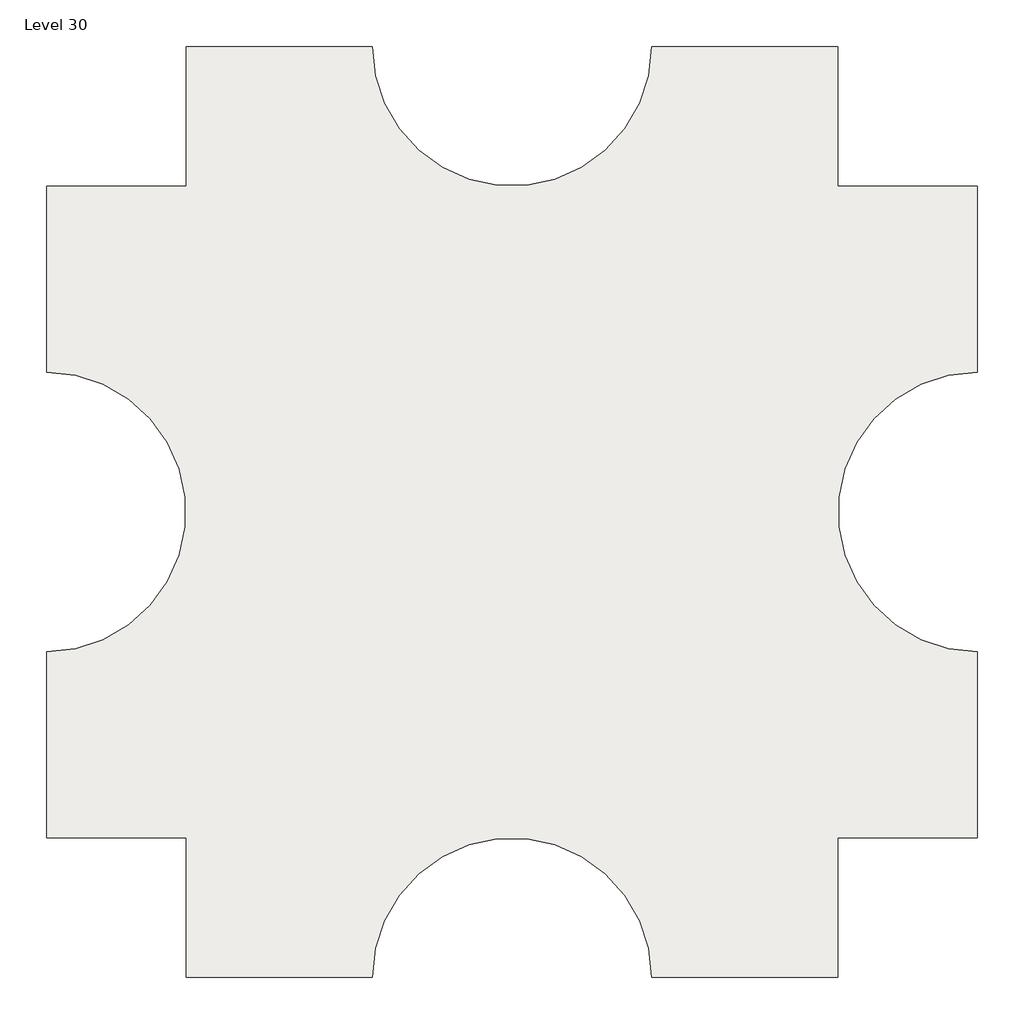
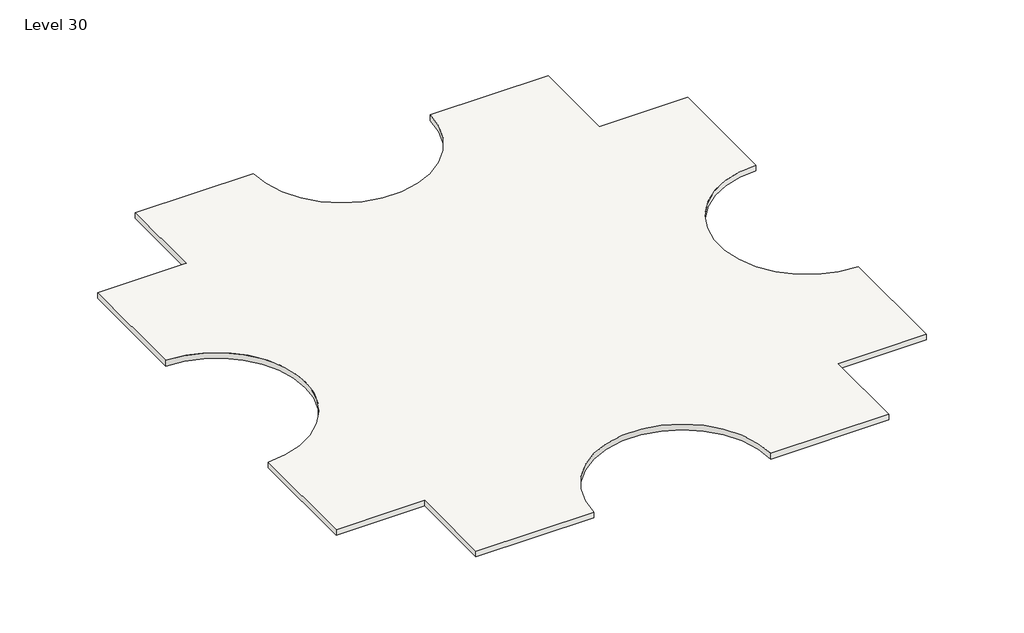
# One storey: 2 slabs.
"""IFC4 building model written with IfcOpenShell, lengths in millimetres."""

import ifcopenshell
import ifcopenshell.guid

model = None  # the IFC model being written
_history = None  # IfcOwnerHistory: only IFC2X3 demands one
_inside = {}  # id of a spatial element -> (the spatial element, [elements in it])
_under = {}  # id of a project, library or spatial element -> (it, [spatial elements below it])
_declared = {}  # id of a project -> (the project, [libraries it declares])
_typed = {}  # id of a type object -> (the type object, [elements of that type])
_made_of = {}  # id of a material, layer set ... -> (it, [elements and type objects made of it])


def new_model(schema):
    """Start an empty IFC model of exactly this schema.

    Asked for "IFC4X3", IfcOpenShell would pick the latest addendum, in which some entities
    have other attributes; the version numbers below select the first issue.
    IFC2X3 requires an IfcOwnerHistory on every rooted entity: one is made here for all.
    """
    global model, _history
    if schema == "IFC4X3":
        model = ifcopenshell.file(schema_version=(4, 3, 0, 0))
    else:
        model = ifcopenshell.file(schema=schema)
    _inside.clear()
    _under.clear()
    _declared.clear()
    _typed.clear()
    _made_of.clear()
    _history = None
    if model.schema == "IFC2X3":
        org = make("IfcOrganization", Name="unknown")
        user = make(
            "IfcPersonAndOrganization",
            ThePerson=make("IfcPerson", FamilyName="unknown"),
            TheOrganization=org,
        )
        app = make(
            "IfcApplication",
            ApplicationDeveloper=org,
            Version="unknown",
            ApplicationFullName="unknown",
            ApplicationIdentifier="unknown",
        )
        _history = make(
            "IfcOwnerHistory",
            OwningUser=user,
            OwningApplication=app,
            ChangeAction="ADDED",
            CreationDate=0,
        )
    return model


def make(cls, **values):
    """One entity of the class cls with the attributes given. An attribute that is None is left unset."""
    return model.create_entity(
        cls, **{name: value for name, value in values.items() if value is not None}
    )


def rooted(cls, **values):
    """An entity with a GlobalId (a new one), such as an element, a storey or a relation."""
    return make(cls, GlobalId=ifcopenshell.guid.new(), OwnerHistory=_history, **values)


def si_unit(unit_type, name, prefix=None):
    """IfcSIUnit, for example si_unit("LENGTHUNIT", "METRE", prefix="MILLI")."""
    return make("IfcSIUnit", UnitType=unit_type, Prefix=prefix, Name=name)


def assignment(units):
    """IfcUnitAssignment: the units of a project."""
    return None if units is None else make("IfcUnitAssignment", Units=units)


def point(xyz):
    """IfcCartesianPoint."""
    return None if xyz is None else make("IfcCartesianPoint", Coordinates=xyz)


def direction(xyz):
    """IfcDirection."""
    return None if xyz is None else make("IfcDirection", DirectionRatios=xyz)


def frame(location, z_axis=None, x_axis=None):
    """IfcAxis2Placement3D, a coordinate frame: its origin and axes. An axis left out is left unset."""
    return make(
        "IfcAxis2Placement3D",
        Location=point(location),
        Axis=direction(z_axis),
        RefDirection=direction(x_axis),
    )


def frame_2d(location, x_axis=None):
    """IfcAxis2Placement2D, a coordinate frame in the plane: its origin and x axis."""
    return make(
        "IfcAxis2Placement2D", Location=point(location), RefDirection=direction(x_axis)
    )


def origin():
    """The frame at (0, 0, 0) with its axes left unset."""
    return frame((0.0, 0.0, 0.0))


def place(relative_to, where):
    """IfcLocalPlacement: puts the frame where relative to a parent placement (None: the world)."""
    return make(
        "IfcLocalPlacement", PlacementRelTo=relative_to, RelativePlacement=where
    )


def context(
    kind, dimensions, precision=None, world=None, true_north=None, identifier=None
):
    """IfcGeometricRepresentationContext, for example the 3D "Model" context."""
    return make(
        "IfcGeometricRepresentationContext",
        ContextIdentifier=identifier,
        ContextType=kind,
        CoordinateSpaceDimension=dimensions,
        Precision=precision,
        WorldCoordinateSystem=world,
        TrueNorth=true_north,
    )


def project(units=None, contexts=None):
    """IfcProject with its units and contexts."""
    return rooted(
        "IfcProject",
        Name="project",
        RepresentationContexts=contexts,
        UnitsInContext=assignment(units),
    )


def spatial(cls, under=None, at=None, **own):
    """A site, building, storey or space (cls), placed at a placement, below another one or the project."""
    s = rooted(cls, ObjectPlacement=at, **own)
    if under is not None:
        _under.setdefault(under.id(), (under, []))[1].append(s)
    return s


def polyline(points):
    """IfcPolyline through the points."""
    return make("IfcPolyline", Points=[point(p) for p in points])


def circle_curve(where, radius):
    """IfcCircle in the frame where."""
    return make("IfcCircle", Position=where, Radius=radius)


def trimmed(basis, trim1, trim2, sense, master):
    """IfcTrimmedCurve: the piece of a basis curve between two trims."""
    return make(
        "IfcTrimmedCurve",
        BasisCurve=basis,
        Trim1=trim1,
        Trim2=trim2,
        SenseAgreement=sense,
        MasterRepresentation=master,
    )


def segment(curve, same_sense, transition):
    """IfcCompositeCurveSegment."""
    return make(
        "IfcCompositeCurveSegment",
        Transition=transition,
        SameSense=same_sense,
        ParentCurve=curve,
    )


def composite_curve(segments, self_intersect=None):
    """IfcCompositeCurve: segments joined end to end."""
    return make("IfcCompositeCurve", Segments=segments, SelfIntersect=self_intersect)


def outline(outer, holes=None, kind="AREA"):
    """IfcArbitraryClosedProfileDef: a profile drawn as a closed curve; with holes, ...WithVoids."""
    if holes is None:
        return make("IfcArbitraryClosedProfileDef", ProfileType=kind, OuterCurve=outer)
    return make(
        "IfcArbitraryProfileDefWithVoids",
        ProfileType=kind,
        OuterCurve=outer,
        InnerCurves=holes,
    )


def extrude(swept, where, along, depth):
    """IfcExtrudedAreaSolid: the profile swept, set in the frame where, extruded along a direction by depth."""
    return make(
        "IfcExtrudedAreaSolid",
        SweptArea=swept,
        Position=where,
        ExtrudedDirection=direction(along),
        Depth=depth,
    )


def shape(context_of_items, identifier, shape_type, items):
    """IfcShapeRepresentation: the items that make up one representation, for example the "Body"."""
    return make(
        "IfcShapeRepresentation",
        ContextOfItems=context_of_items,
        RepresentationIdentifier=identifier,
        RepresentationType=shape_type,
        Items=items,
    )


def made_of(thing, what):
    """Note that an element or type object is made of a material, layer set ...; save() writes the relation."""
    if what is not None:
        _made_of.setdefault(what.id(), (what, []))[1].append(thing)
    return thing


def element(
    cls,
    number,
    at=None,
    inside=None,
    cuts=None,
    type_object=None,
    material=None,
    context=None,
    identifier="Body",
    shape_type=None,
    held_by="IfcProductDefinitionShape",
    body=None,
    shapes=None,
    **own,
):
    """One element of the class cls, such as IfcWall. Its Tag is "e" and its number.

    at: its placement. inside: the storey or other place that contains it. cuts: it is an
    opening in that element (IfcRelVoidsElement). A single representation is given by context,
    identifier, shape_type and body (its items); several are given by shapes. held_by: the class
    of the entity that holds the representations. save() writes the other relations.
    """
    e = rooted(cls, Tag="e%d" % number, ObjectPlacement=at, **own)
    if body is not None:
        shapes = [shape(context, identifier, shape_type, body)]
    if shapes is not None:
        e.Representation = make(held_by, Representations=shapes)
    if inside is not None:
        _inside.setdefault(inside.id(), (inside, []))[1].append(e)
    if cuts is not None:
        rooted(
            "IfcRelVoidsElement", RelatingBuildingElement=cuts, RelatedOpeningElement=e
        )
    if type_object is not None:
        _typed.setdefault(type_object.id(), (type_object, []))[1].append(e)
    return made_of(e, material)


def aggregate(whole, parts):
    """IfcRelAggregates: a whole, such as a stair, and the parts it consists of."""
    return rooted("IfcRelAggregates", RelatingObject=whole, RelatedObjects=parts)


def save(model, path):
    """Write the relations noted so far, then the file.

    IfcRelAggregates (storeys below a building ...), IfcRelContainedInSpatialStructure (elements
    in a storey), IfcRelDefinesByType, IfcRelAssociatesMaterial and IfcRelDeclares: one each for
    every whole, place, type object, material and project.
    """
    for whole, parts in _under.values():
        aggregate(whole, parts)
    for where, things in _inside.values():
        rooted(
            "IfcRelContainedInSpatialStructure",
            RelatedElements=things,
            RelatingStructure=where,
        )
    for kind, things in _typed.values():
        rooted("IfcRelDefinesByType", RelatedObjects=things, RelatingType=kind)
    for what, things in _made_of.values():
        rooted("IfcRelAssociatesMaterial", RelatedObjects=things, RelatingMaterial=what)
    for by, libraries in _declared.values():
        rooted("IfcRelDeclares", RelatingContext=by, RelatedDefinitions=libraries)
    model.write(path)


model = new_model("IFC4")

# Units and contexts
model_context = context("Model", 3, world=origin())
ifc_project = project(units=[si_unit("LENGTHUNIT", "METRE", prefix="MILLI")], contexts=[model_context])

# Site, building, storey
site = spatial("IfcSite", under=ifc_project)
building = spatial("IfcBuilding", under=site)
storey = spatial("IfcBuildingStorey", under=building, Name="Level 30", Elevation=88392.0)

# Slabs
placement = place(None, origin())
element("IfcSlab", 1, ObjectType="Generic - 12\"", at=placement, inside=storey, context=model_context, shape_type="SweptSolid", body=[
    extrude(outline(composite_curve([segment(polyline([(-7150.3629456, 4479.6634547), (-7150.3629456, 9051.6634547), (-1054.3629456, 9051.6634547)]), True, "CONTINUOUS"), segment(trimmed(circle_curve(frame_2d((3517.6370544, 9051.6634547)), 4572.0), [point((-1054.3629456, 9051.6634547))], [point((8089.6370544, 9051.6634547))], True, "CARTESIAN"), True, "CONTINUOUS"), segment(polyline([(8089.6370544, 9051.6634547), (14185.6370544, 9051.6634547), (14185.6370544, 4479.6634547), (18757.6370544, 4479.6634547), (18757.6370544, -1616.3365453)]), True, "CONTINUOUS"), segment(trimmed(circle_curve(frame_2d((18757.6370544, -6188.3365453)), 4572.0), [point((18757.6370544, -1616.3365453))], [point((18757.6370544, -10760.3365453))], True, "CARTESIAN"), True, "CONTINUOUS"), segment(polyline([(18757.6370544, -10760.3365453), (18757.6370544, -16856.3365453), (14185.6370544, -16856.3365453), (14185.6370544, -21428.3365453), (8089.6370544, -21428.3365453)]), True, "CONTINUOUS"), segment(trimmed(circle_curve(frame_2d((3517.6370544, -21428.3365453)), 4572.0), [point((8089.6370544, -21428.3365453))], [point((-1054.3629456, -21428.3365453))], True, "CARTESIAN"), True, "CONTINUOUS"), segment(polyline([(-1054.3629456, -21428.3365453), (-7150.3629456, -21428.3365453), (-7150.3629456, -16856.3365453), (-11722.3629456, -16856.3365453), (-11722.3629456, -10760.3365453)]), True, "CONTINUOUS"), segment(trimmed(circle_curve(frame_2d((-11722.3629456, -6188.3365453)), 4572.0), [point((-11722.3629456, -10760.3365453))], [point((-11722.3629456, -1616.3365453))], True, "CARTESIAN"), True, "CONTINUOUS"), segment(polyline([(-11722.3629456, -1616.3365453), (-11722.3629456, 4479.6634547), (-7150.3629456, 4479.6634547)]), True, "CONTINUOUS")], self_intersect=False)), frame((0.0, 0.0, 88087.2), z_axis=(0.0, 0.0, 1.0), x_axis=(1.0, 0.0, 0.0)), (0.0, 0.0, 1.0), 304.8),
])
element("IfcSlab", 2, ObjectType="Generic - 12\"", at=placement, inside=storey, context=model_context, shape_type="SweptSolid", body=[
    extrude(outline(composite_curve([segment(polyline([(-7150.3629456, 4479.6634547), (-7150.3629456, 9051.6634547), (-1054.3629456, 9051.6634547)]), True, "CONTINUOUS"), segment(trimmed(circle_curve(frame_2d((3517.6370544, 9051.6634547)), 4572.0), [point((-1054.3629456, 9051.6634547))], [point((8089.6370544, 9051.6634547))], True, "CARTESIAN"), True, "CONTINUOUS"), segment(polyline([(8089.6370544, 9051.6634547), (14185.6370544, 9051.6634547), (14185.6370544, 4479.6634547), (18757.6370544, 4479.6634547), (18757.6370544, -1616.3365453)]), True, "CONTINUOUS"), segment(trimmed(circle_curve(frame_2d((18757.6370544, -6188.3365453)), 4572.0), [point((18757.6370544, -1616.3365453))], [point((18757.6370544, -10760.3365453))], True, "CARTESIAN"), True, "CONTINUOUS"), segment(polyline([(18757.6370544, -10760.3365453), (18757.6370544, -16856.3365453), (14185.6370544, -16856.3365453), (14185.6370544, -21428.3365453), (8089.6370544, -21428.3365453)]), True, "CONTINUOUS"), segment(trimmed(circle_curve(frame_2d((3517.6370544, -21428.3365453)), 4572.0), [point((8089.6370544, -21428.3365453))], [point((-1054.3629456, -21428.3365453))], True, "CARTESIAN"), True, "CONTINUOUS"), segment(polyline([(-1054.3629456, -21428.3365453), (-7150.3629456, -21428.3365453), (-7150.3629456, -16856.3365453), (-11722.3629456, -16856.3365453), (-11722.3629456, -10760.3365453)]), True, "CONTINUOUS"), segment(trimmed(circle_curve(frame_2d((-11722.3629456, -6188.3365453)), 4572.0), [point((-11722.3629456, -10760.3365453))], [point((-11722.3629456, -1616.3365453))], True, "CARTESIAN"), True, "CONTINUOUS"), segment(polyline([(-11722.3629456, -1616.3365453), (-11722.3629456, 4479.6634547), (-7150.3629456, 4479.6634547)]), True, "CONTINUOUS")], self_intersect=False)), frame((0.0, 0.0, 88087.2), z_axis=(0.0, 0.0, 1.0), x_axis=(1.0, 0.0, 0.0)), (0.0, 0.0, 1.0), 304.8),
])

save(model, "model.ifc")
